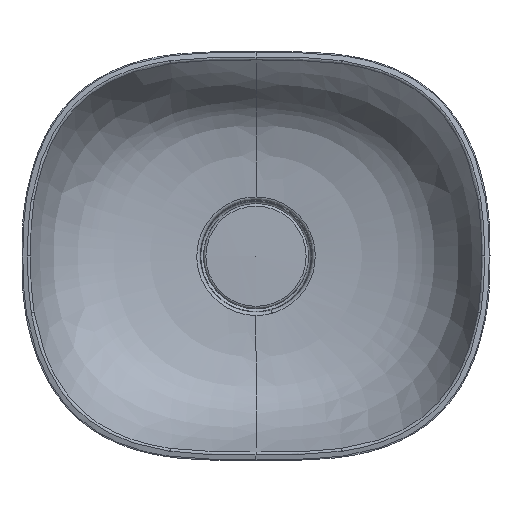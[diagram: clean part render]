
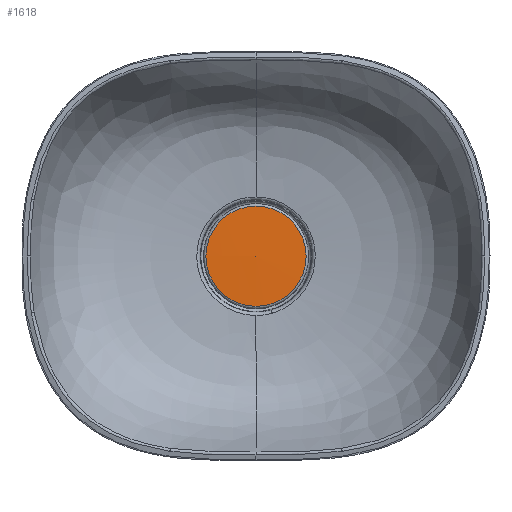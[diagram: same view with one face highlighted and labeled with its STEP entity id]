
A CAD part, top view. The second image highlights one B-rep face of the part: STEP entity #1618.
In plain terms, the highlighted spherical face has radius 2006.44 mm.
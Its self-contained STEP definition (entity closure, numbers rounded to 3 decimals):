
#230=SPHERICAL_SURFACE('',#1745,2006.442);
#334=FACE_OUTER_BOUND('',#438,.T.);
#438=EDGE_LOOP('',(#1088,#1089,#1090,#1091,#1092));
#545=CIRCLE('',#1739,42.867);
#546=CIRCLE('',#1740,42.867);
#547=CIRCLE('',#1741,42.867);
#550=CIRCLE('',#1746,2006.442);
#641=VERTEX_POINT('',#2182);
#642=VERTEX_POINT('',#2184);
#643=VERTEX_POINT('',#2186);
#646=VERTEX_POINT('',#2196);
#810=EDGE_CURVE('',#642,#641,#545,.T.);
#811=EDGE_CURVE('',#643,#642,#546,.T.);
#812=EDGE_CURVE('',#641,#643,#547,.T.);
#816=EDGE_CURVE('',#646,#642,#550,.T.);
#1088=ORIENTED_EDGE('',*,*,#811,.T.);
#1089=ORIENTED_EDGE('',*,*,#816,.F.);
#1090=ORIENTED_EDGE('',*,*,#816,.T.);
#1091=ORIENTED_EDGE('',*,*,#810,.T.);
#1092=ORIENTED_EDGE('',*,*,#812,.T.);
#1618=ADVANCED_FACE('',(#334),#230,.T.);
#1739=AXIS2_PLACEMENT_3D('',#2185,#1877,#1878);
#1740=AXIS2_PLACEMENT_3D('',#2187,#1879,#1880);
#1741=AXIS2_PLACEMENT_3D('',#2188,#1881,#1882);
#1745=AXIS2_PLACEMENT_3D('',#2195,#1890,#1891);
#1746=AXIS2_PLACEMENT_3D('',#2197,#1892,#1893);
#1877=DIRECTION('center_axis',(0.,0.,1.));
#1878=DIRECTION('ref_axis',(0.,1.,0.));
#1879=DIRECTION('center_axis',(0.,0.,1.));
#1880=DIRECTION('ref_axis',(0.,1.,0.));
#1881=DIRECTION('center_axis',(0.,0.,1.));
#1882=DIRECTION('ref_axis',(0.,1.,0.));
#1890=DIRECTION('center_axis',(0.,0.,
1.));
#1891=DIRECTION('ref_axis',(1.,0.,0.));
#1892=DIRECTION('center_axis',(0.,-1.,0.));
#1893=DIRECTION('ref_axis',(-1.,0.,0.));
#2182=CARTESIAN_POINT('',(0.,-83.867,41.042));
#2184=CARTESIAN_POINT('',(-42.867,-41.,41.042));
#2185=CARTESIAN_POINT('Origin',(0.,-41.,41.042));
#2186=CARTESIAN_POINT('',(0.,1.867,41.042));
#2187=CARTESIAN_POINT('Origin',(0.,-41.,41.042));
#2188=CARTESIAN_POINT('Origin',(0.,-41.,41.042));
#2195=CARTESIAN_POINT('Origin',(0.,-41.,-1964.942));
#2196=CARTESIAN_POINT('',(0.,-41.,41.5));
#2197=CARTESIAN_POINT('Origin',(0.,-41.,-1964.942));
